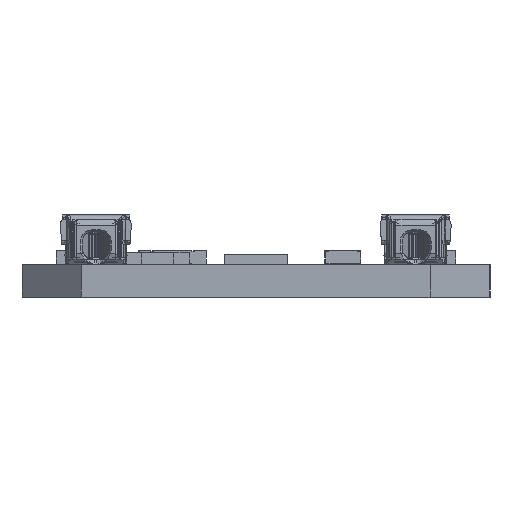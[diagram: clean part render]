
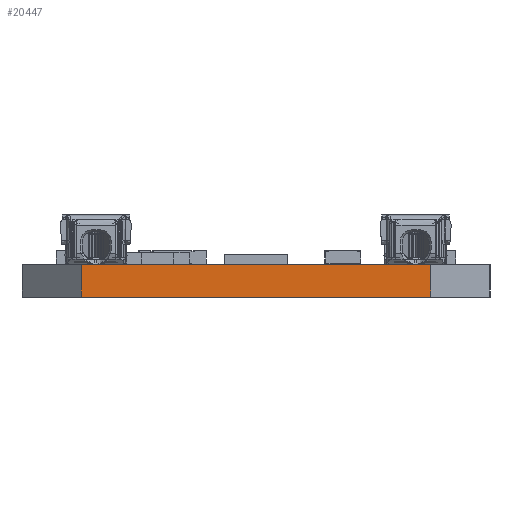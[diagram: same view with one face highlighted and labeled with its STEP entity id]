
A CAD part, left-side view. The second image highlights one B-rep face of the part: STEP entity #20447.
In plain terms, the highlighted planar face has unit normal (-1, 0, 0).
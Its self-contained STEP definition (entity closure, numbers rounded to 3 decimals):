
#288=DIRECTION('',(0.,-1.,0.));
#289=VECTOR('',#288,17.6);
#290=CARTESIAN_POINT('',(-279.5,8.8,1.65));
#291=LINE('',#290,#289);
#2416=DIRECTION('',(0.,1.,0.));
#2417=VECTOR('',#2416,17.6);
#2418=CARTESIAN_POINT('',(-279.5,-8.8,0.));
#2419=LINE('',#2418,#2417);
#2662=DIRECTION('',(0.,0.,1.));
#2663=VECTOR('',#2662,1.65);
#2664=CARTESIAN_POINT('',(-279.5,8.8,0.));
#2665=LINE('',#2664,#2663);
#2666=DIRECTION('',(0.,0.,1.));
#2667=VECTOR('',#2666,1.65);
#2668=CARTESIAN_POINT('',(-279.5,-8.8,0.));
#2669=LINE('',#2668,#2667);
#15645=CARTESIAN_POINT('',(-279.5,8.8,0.));
#15646=CARTESIAN_POINT('',(-279.5,8.8,1.65));
#15647=VERTEX_POINT('',#15645);
#15648=VERTEX_POINT('',#15646);
#15665=CARTESIAN_POINT('',(-279.5,-8.8,1.65));
#15666=VERTEX_POINT('',#15665);
#15673=CARTESIAN_POINT('',(-279.5,-8.8,0.));
#15674=VERTEX_POINT('',#15673);
#20435=CARTESIAN_POINT('',(-279.5,8.8,1.65));
#20436=DIRECTION('',(-1.,0.,0.));
#20437=DIRECTION('',(0.,0.,1.));
#20438=AXIS2_PLACEMENT_3D('',#20435,#20436,#20437);
#20439=PLANE('',#20438);
#20441=ORIENTED_EDGE('',*,*,#20440,.F.);
#20442=ORIENTED_EDGE('',*,*,#20088,.T.);
#20443=ORIENTED_EDGE('',*,*,#20427,.T.);
#20444=ORIENTED_EDGE('',*,*,#18716,.T.);
#20445=EDGE_LOOP('',(#20441,#20442,#20443,#20444));
#20446=FACE_OUTER_BOUND('',#20445,.F.);
#20447=ADVANCED_FACE('',(#20446),#20439,.T.);
#18716=EDGE_CURVE('',#15648,#15666,#291,.T.);
#20088=EDGE_CURVE('',#15674,#15647,#2419,.T.);
#20427=EDGE_CURVE('',#15647,#15648,#2665,.T.);
#20440=EDGE_CURVE('',#15674,#15666,#2669,.T.);
